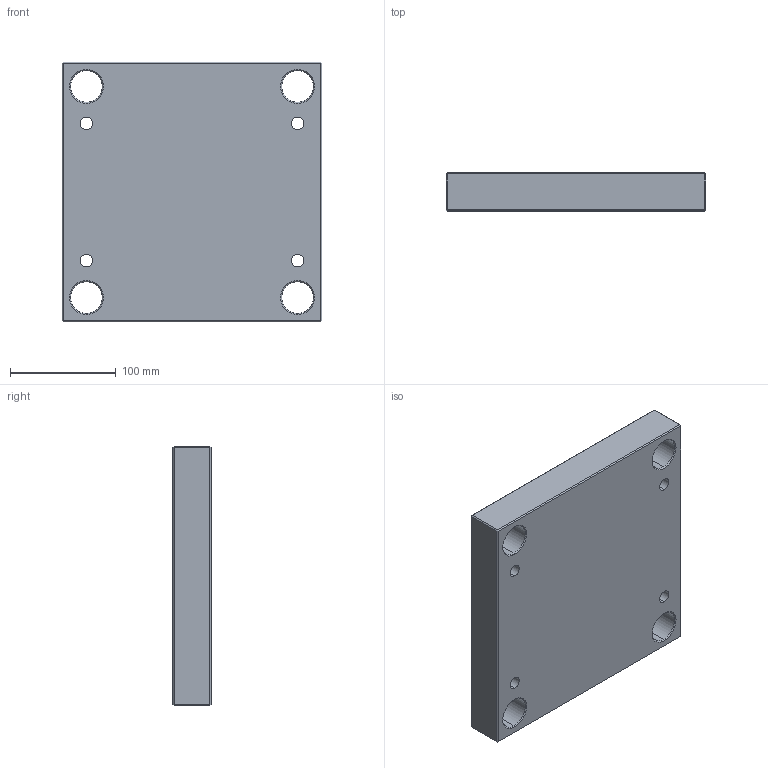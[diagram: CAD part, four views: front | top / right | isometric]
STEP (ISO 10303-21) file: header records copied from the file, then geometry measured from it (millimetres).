
FILE_DESCRIPTION (( 'STEP AP214' ), '1' );
FILE_NAME ('PS-EU-246x246x36.STEP', '2021-02-17T16:11:45', ( '' ), ( '' ), 'SwSTEP 2.0', 'SolidWorks 2018', '' );
FILE_SCHEMA (( 'AUTOMOTIVE_DESIGN' ));
Length unit declared in the file: millimetre
Products named in the file (1): PS-EU-246x246x36
Bounding box: 246 x 36 x 246 mm (x, y, z)
Volume: 2047806.9 mm3; surface area: 168632.7 mm2
Topology: 1 solids, 1 shells, 70 faces, 152 edges, 88 vertices
Faces by surface type: plane 30, cylinder 24, cone 16
Entity records: 1946 total; most frequent: DIRECTION 358, CARTESIAN_POINT 311, ORIENTED_EDGE 304, EDGE_CURVE 152, AXIS2_PLACEMENT_3D 135, EDGE_LOOP 90, VERTEX_POINT 88, LINE 88
